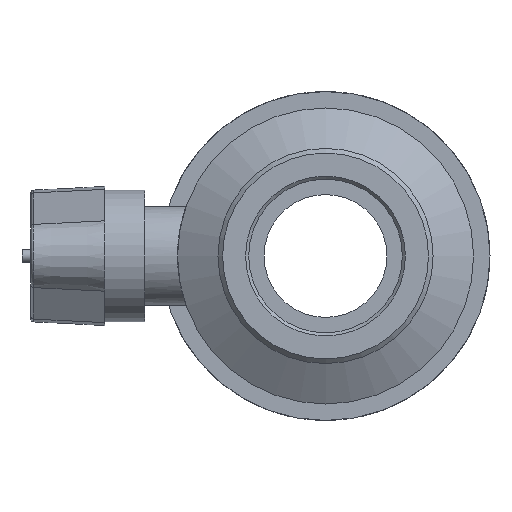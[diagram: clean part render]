
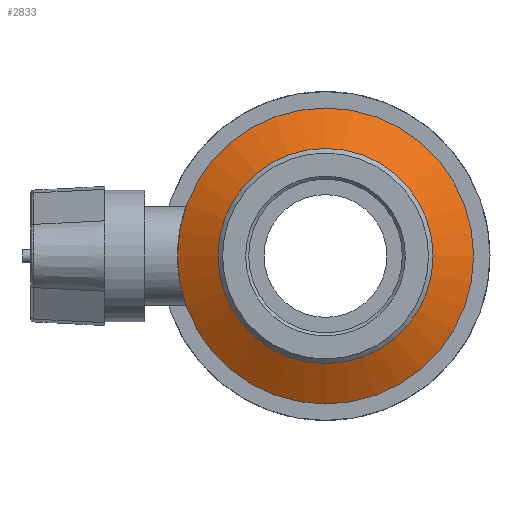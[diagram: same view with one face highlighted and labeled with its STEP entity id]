
A CAD part, left-side view. The second image highlights one B-rep face of the part: STEP entity #2833.
In plain terms, the highlighted conical face has half-angle 60 degrees and reference radius 37.296 mm.
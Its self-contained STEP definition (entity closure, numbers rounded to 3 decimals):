
#32=FACE_BOUND('',#494,.T.);
#149=CONICAL_SURFACE('',#3182,37.296,60.);
#310=FACE_OUTER_BOUND('',#493,.T.);
#493=EDGE_LOOP('',(#2605));
#494=EDGE_LOOP('',(#2606));
#686=CIRCLE('',#3181,31.392);
#687=CIRCLE('',#3183,43.2);
#1359=VERTEX_POINT('',#5606);
#1360=VERTEX_POINT('',#5609);
#1777=EDGE_CURVE('',#1359,#1359,#686,.T.);
#1778=EDGE_CURVE('',#1360,#1360,#687,.T.);
#2605=ORIENTED_EDGE('',*,*,#1778,.F.);
#2606=ORIENTED_EDGE('',*,*,#1777,.T.);
#2833=ADVANCED_FACE('',(#310,#32),#149,.T.);
#3181=AXIS2_PLACEMENT_3D('',#5607,#4038,#4039);
#3182=AXIS2_PLACEMENT_3D('',#5608,#4040,#4041);
#3183=AXIS2_PLACEMENT_3D('',#5610,#4042,#4043);
#4038=DIRECTION('center_axis',(1.,0.,0.));
#4039=DIRECTION('ref_axis',(0.,0.,-1.));
#4040=DIRECTION('center_axis',(1.,0.,0.));
#4041=DIRECTION('ref_axis',(0.,1.,0.));
#4042=DIRECTION('center_axis',(1.,0.,0.));
#4043=DIRECTION('ref_axis',(0.,0.,-1.));
#5606=CARTESIAN_POINT('',(-23.118,31.392,0.));
#5607=CARTESIAN_POINT('Origin',(-23.118,0.,0.));
#5608=CARTESIAN_POINT('Origin',(-19.709,0.,0.));
#5609=CARTESIAN_POINT('',(-16.3,43.2,0.));
#5610=CARTESIAN_POINT('Origin',(-16.3,0.,0.));
